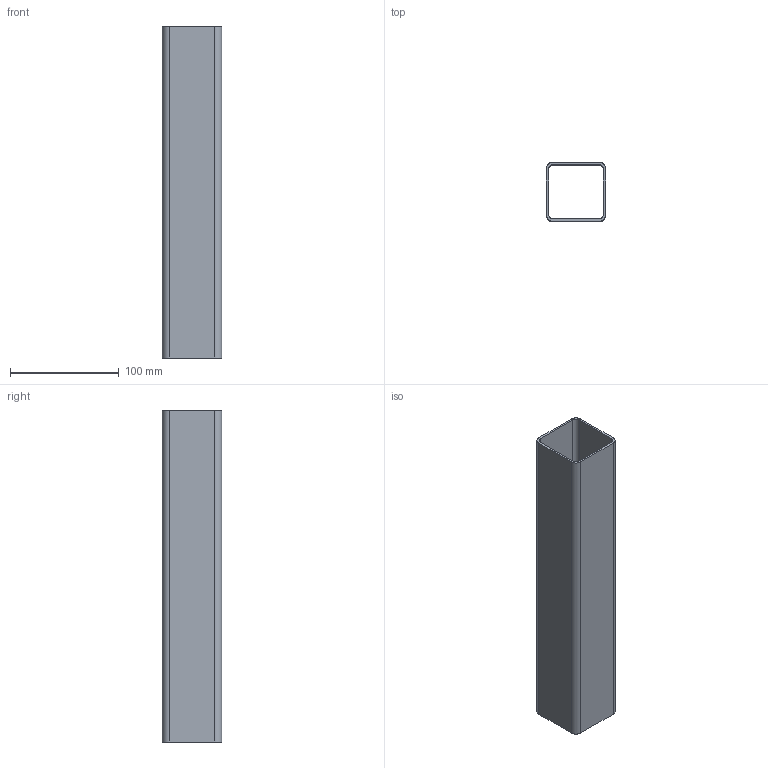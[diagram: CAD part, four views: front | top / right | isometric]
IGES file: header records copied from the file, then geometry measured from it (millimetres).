
Start section: SolidWorks IGES file using analytic representation for surfaces
Global section: file name: O:\Database\Dumb Solids - Coupling & Gussets\DRP-002-0001-12.IGS; native system: SolidWorks 2011; preprocessor: SolidWorks 2011; author: mbush2; date: 111205.153348; units: inch
Bounding box: 54.36 x 54.36 x 304.8 mm (x, y, z)
Surface area: 122857.9 mm2 (no closed solid volume)
Topology: 0 solids, 0 shells, 18 faces, 208 edges, 208 vertices
Faces by surface type: bspline 10, revolution 8
